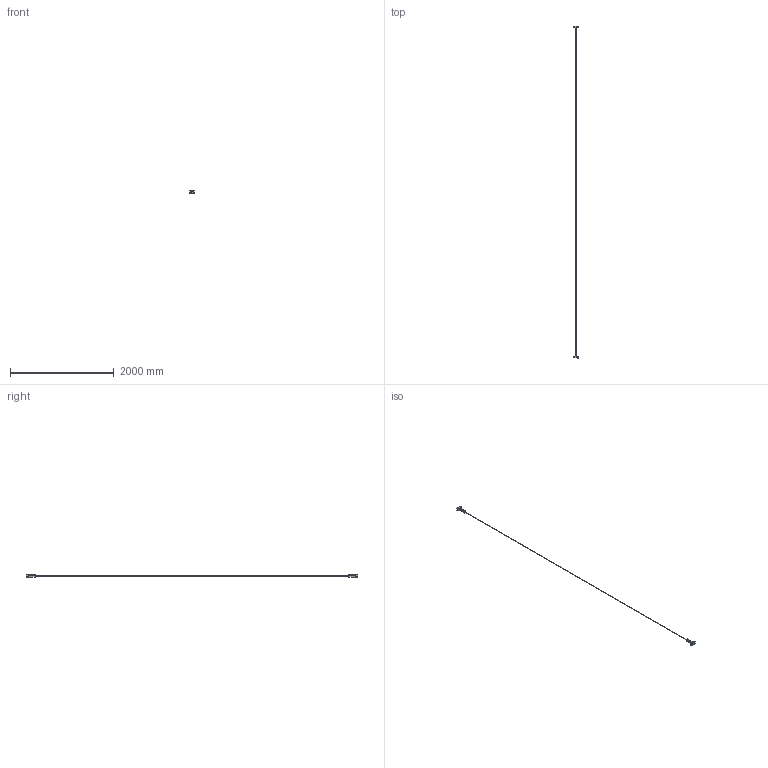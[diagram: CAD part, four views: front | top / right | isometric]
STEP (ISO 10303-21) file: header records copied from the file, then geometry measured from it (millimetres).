
FILE_DESCRIPTION(/* description */ (''),/* implementation_level */ '2;1');
FILE_NAME(/* name */ 'UTOPIA 6.stp',/* time_stamp */ '2025-02-27T14:11:59+01:00',/* author */ ('n.bisotti'),/* organization */ (''),/* preprocessor_version */ 'ST-DEVELOPER v19.2',/* originating_system */ 'Autodesk Inventor 2023',/* authorisation */ '');
FILE_SCHEMA (('AUTOMOTIVE_DESIGN { 1 0 10303 214 3 1 1 }'));
Length unit declared in the file: millimetre
Products named in the file (1): Parte1
Bounding box: 90 x 6400 x 53 mm (x, y, z)
Volume: 298724.2 mm3; surface area: 330858.7 mm2
Topology: 21 solids, 21 shells, 575 faces, 1363 edges, 834 vertices
Faces by surface type: plane 375, cylinder 168, cone 32
Full cylindrical faces by diameter (mm): 3.242 x7, 4.6 x6, 6.647 x2, 7 x2, 8 x4, 15 x2
Entity records: 17026 total; most frequent: CARTESIAN_POINT 2880, DIRECTION 2840, ORIENTED_EDGE 2706, EDGE_CURVE 1353, LINE 974, VECTOR 974, AXIS2_PLACEMENT_3D 933, VERTEX_POINT 833
